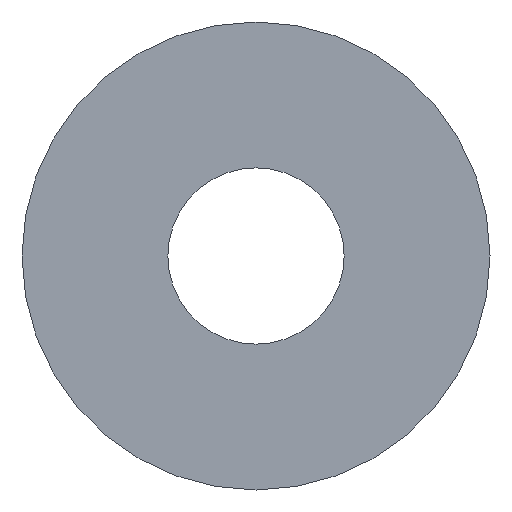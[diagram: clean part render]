
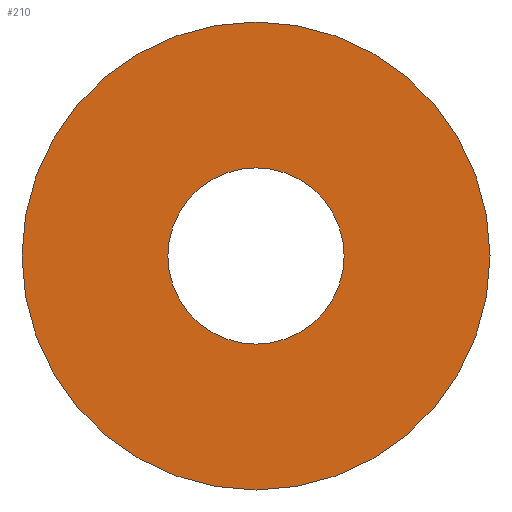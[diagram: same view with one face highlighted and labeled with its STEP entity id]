
A CAD part, front view. The second image highlights one B-rep face of the part: STEP entity #210.
In plain terms, the highlighted planar face has unit normal (0, -1, 0).
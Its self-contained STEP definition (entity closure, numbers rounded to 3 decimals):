
#5 = EDGE_CURVE ( 'NONE', #179, #40, #182, .T. ) ;
#26 = CARTESIAN_POINT ( 'NONE',  ( 0., 0., 185. ) ) ;
#31 = CARTESIAN_POINT ( 'NONE',  ( 0., 0., 491. ) ) ;
#33 = CARTESIAN_POINT ( 'NONE',  ( 0., 0., 0. ) ) ;
#40 = VERTEX_POINT ( 'NONE', #216 ) ;
#42 = ORIENTED_EDGE ( 'NONE', *, *, #67, .F. ) ;
#50 = DIRECTION ( 'NONE',  ( 0., 1., 0. ) ) ;
#56 = ORIENTED_EDGE ( 'NONE', *, *, #5, .F. ) ;
#59 = EDGE_LOOP ( 'NONE', ( #158, #134 ) ) ;
#61 = VERTEX_POINT ( 'NONE', #26 ) ;
#65 = FACE_BOUND ( 'NONE', #59, .T. ) ;
#67 = EDGE_CURVE ( 'NONE', #40, #179, #167, .T. ) ;
#71 = DIRECTION ( 'NONE',  ( 0., 1., 0. ) ) ;
#78 = EDGE_CURVE ( 'NONE', #61, #121, #142, .T. ) ;
#85 = CARTESIAN_POINT ( 'NONE',  ( 0., 0., 0. ) ) ;
#89 = AXIS2_PLACEMENT_3D ( 'NONE', #97, #135, #212 ) ;
#94 = AXIS2_PLACEMENT_3D ( 'NONE', #85, #197, #139 ) ;
#97 = CARTESIAN_POINT ( 'NONE',  ( 0., 0., 0. ) ) ;
#102 = CARTESIAN_POINT ( 'NONE',  ( 0., 0., 0. ) ) ;
#117 = DIRECTION ( 'NONE',  ( 0., 1., 0. ) ) ;
#121 = VERTEX_POINT ( 'NONE', #199 ) ;
#124 = FACE_OUTER_BOUND ( 'NONE', #238, .T. ) ;
#127 = PLANE ( 'NONE',  #171 ) ;
#134 = ORIENTED_EDGE ( 'NONE', *, *, #78, .T. ) ;
#135 = DIRECTION ( 'NONE',  ( 0., 1., 0. ) ) ;
#139 = DIRECTION ( 'NONE',  ( 0., 0., 1. ) ) ;
#142 = CIRCLE ( 'NONE', #89, 185. ) ;
#143 = DIRECTION ( 'NONE',  ( 0., 0., 1. ) ) ;
#149 = EDGE_CURVE ( 'NONE', #121, #61, #208, .T. ) ;
#152 = AXIS2_PLACEMENT_3D ( 'NONE', #102, #117, #180 ) ;
#158 = ORIENTED_EDGE ( 'NONE', *, *, #149, .T. ) ;
#159 = AXIS2_PLACEMENT_3D ( 'NONE', #201, #50, #143 ) ;
#167 = CIRCLE ( 'NONE', #152, 491. ) ;
#171 = AXIS2_PLACEMENT_3D ( 'NONE', #33, #71, #241 ) ;
#179 = VERTEX_POINT ( 'NONE', #31 ) ;
#180 = DIRECTION ( 'NONE',  ( 0., 0., 1. ) ) ;
#182 = CIRCLE ( 'NONE', #94, 491. ) ;
#197 = DIRECTION ( 'NONE',  ( 0., 1., 0. ) ) ;
#199 = CARTESIAN_POINT ( 'NONE',  ( 0., 0., -185. ) ) ;
#201 = CARTESIAN_POINT ( 'NONE',  ( 0., 0., 0. ) ) ;
#208 = CIRCLE ( 'NONE', #159, 185. ) ;
#210 = ADVANCED_FACE ( 'NONE', ( #124, #65 ), #127, .F. ) ;
#212 = DIRECTION ( 'NONE',  ( 0., 0., 1. ) ) ;
#216 = CARTESIAN_POINT ( 'NONE',  ( 0., 0., -491. ) ) ;
#238 = EDGE_LOOP ( 'NONE', ( #42, #56 ) ) ;
#241 = DIRECTION ( 'NONE',  ( 0., 0., 1. ) ) ;
